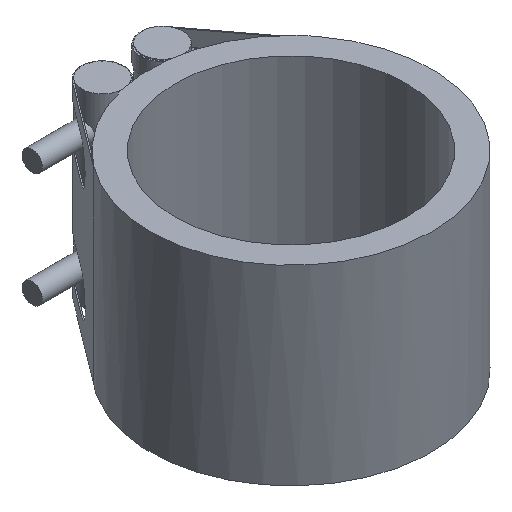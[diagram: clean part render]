
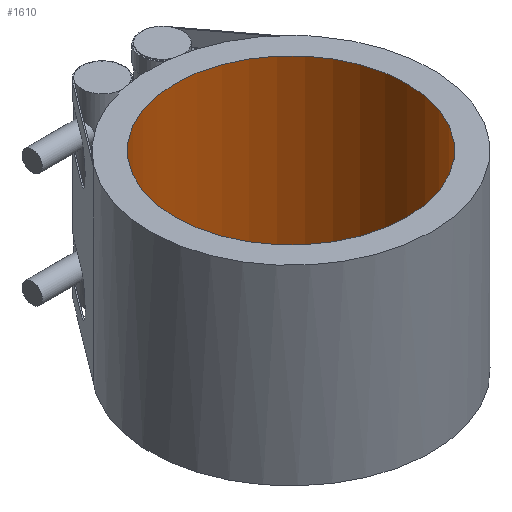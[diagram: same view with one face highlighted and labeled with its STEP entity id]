
A CAD part, isometric view. The second image highlights one B-rep face of the part: STEP entity #1610.
In plain terms, the highlighted cylindrical face has radius 57 mm (diameter 114 mm), a full revolution.
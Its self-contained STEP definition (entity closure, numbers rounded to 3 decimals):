
#364=CYLINDRICAL_SURFACE('',#1752,57.);
#418=FACE_BOUND('',#594,.T.);
#466=FACE_OUTER_BOUND('',#593,.T.);
#593=EDGE_LOOP('',(#1313));
#594=EDGE_LOOP('',(#1314));
#691=CIRCLE('',#1753,57.);
#692=CIRCLE('',#1754,57.);
#831=VERTEX_POINT('',#2856);
#832=VERTEX_POINT('',#2858);
#1007=EDGE_CURVE('',#831,#831,#691,.T.);
#1008=EDGE_CURVE('',#832,#832,#692,.T.);
#1313=ORIENTED_EDGE('',*,*,#1007,.F.);
#1314=ORIENTED_EDGE('',*,*,#1008,.F.);
#1610=ADVANCED_FACE('',(#466,#418),#364,.F.);
#1752=AXIS2_PLACEMENT_3D('',#2855,#2089,#2090);
#1753=AXIS2_PLACEMENT_3D('',#2857,#2091,#2092);
#1754=AXIS2_PLACEMENT_3D('',#2859,#2093,#2094);
#2089=DIRECTION('center_axis',(0.,0.,1.));
#2090=DIRECTION('ref_axis',(-1.,0.,0.));
#2091=DIRECTION('center_axis',(0.,0.,1.));
#2092=DIRECTION('ref_axis',(-1.,0.,0.));
#2093=DIRECTION('center_axis',(0.,0.,-1.));
#2094=DIRECTION('ref_axis',(-1.,0.,0.));
#2855=CARTESIAN_POINT('Origin',(0.,0.,0.));
#2856=CARTESIAN_POINT('',(57.,0.,-47.));
#2857=CARTESIAN_POINT('Origin',(0.,0.,-47.));
#2858=CARTESIAN_POINT('',(57.,0.,47.));
#2859=CARTESIAN_POINT('Origin',(0.,0.,47.));
